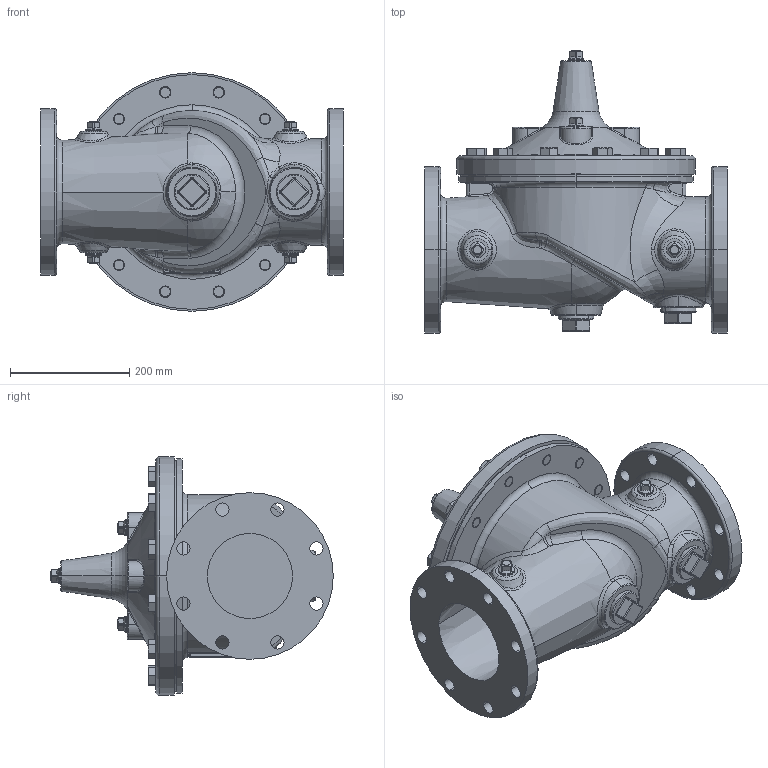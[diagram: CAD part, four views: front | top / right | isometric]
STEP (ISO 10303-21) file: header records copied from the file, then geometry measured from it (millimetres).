
FILE_DESCRIPTION (( 'STEP AP203' ), '1' );
FILE_NAME ('6in 100G Main Valve, 150LB Flat Face.STEP', '2023-10-30T17:04:40', ( '' ), ( '' ), 'SwSTEP 2.0', 'SolidWorks 2022', '' );
FILE_SCHEMA (( 'CONFIG_CONTROL_DESIGN' ));
Length unit declared in the file: inch
Products named in the file (6): Bolt .750-10 UNC  (67609)_1.75   67609-04A; 6in Cover (RED) with 2 or 4 Bosses Drld, 100S & 100GS_2 bosses drld 180 apart & no spotface; .750 NPT PIPE PLUG (67660)_Default STEEL, CAD PL; 6in Body 100G 150A STD (RED)_Default STD; 6in 100G Main Valve, 150LB Flat Face; 2.0 NPT SQ HD PIPE PLUG (67660)_316 SST
Assembly tree (23 placements, depth 2):
  6in 100G Main Valve, 150LB Flat Face
    6in Body 100G 150A STD (RED)_Default STD
    6in Cover (RED) with 2 or 4 Bosses Drld, 100S & 100GS_2 bosses drld 180 apart & no spotface
    Bolt .750-10 UNC  (67609)_1.75   67609-04A  x12
    .750 NPT PIPE PLUG (67660)_Default STEEL, CAD PL  x7
    2.0 NPT SQ HD PIPE PLUG (67660)_316 SST  x2
Bounding box: 508 x 473.71 x 400.05 mm (x, y, z)
Volume: 22114599.6 mm3; surface area: 1354492.6 mm2
Topology: 23 solids, 23 shells, 1437 faces, 3187 edges, 1774 vertices
Faces by surface type: cone 474, cylinder 272, plane 246, bspline 228, torus 133, sphere 84
Entity records: 28265 total; most frequent: CARTESIAN_POINT 14389, DIRECTION 2684, ORIENTED_EDGE 2678, EDGE_CURVE 1339, AXIS2_PLACEMENT_3D 1172, VERTEX_POINT 790, CIRCLE 701, EDGE_LOOP 689
